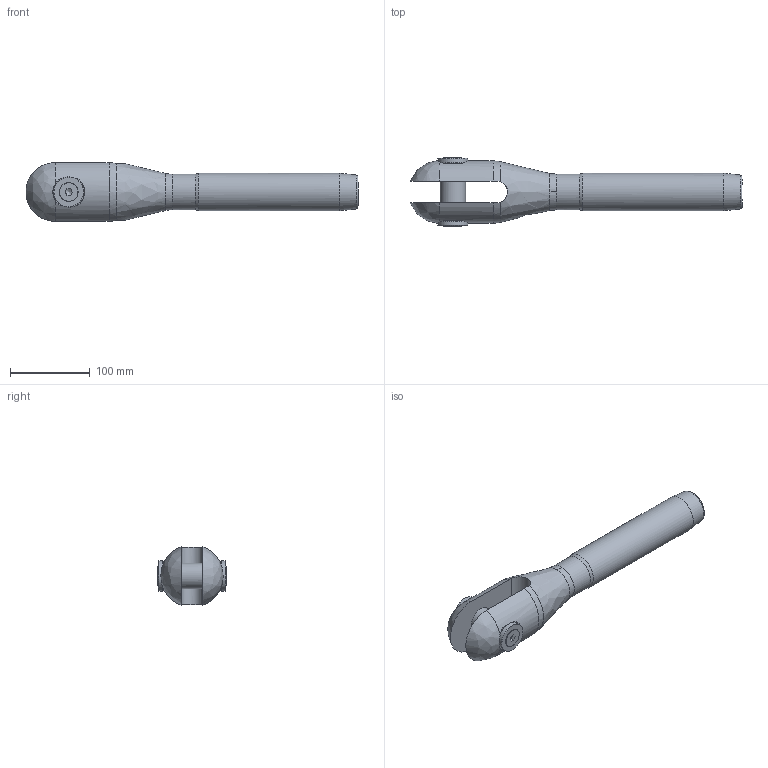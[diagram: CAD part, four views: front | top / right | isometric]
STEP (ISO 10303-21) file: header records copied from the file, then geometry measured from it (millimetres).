
FILE_DESCRIPTION(/* description */ (''),/* implementation_level */ '2;1');
FILE_NAME(/* name */ 'MAC 22_1,4418',/* time_stamp */ '2023-05-23T16:54:54+02:00',/* author */ (''),/* organization */ (''),/* preprocessor_version */ 'ST-DEVELOPER v16.5',/* originating_system */ 'Rhino 7.22',/* authorisation */ '');
FILE_SCHEMA (('CONFIG_CONTROL_DESIGN'));
Length unit declared in the file: millimetre
Products named in the file (1): Document
Bounding box: 415.53 x 85.7 x 73.18 mm (x, y, z)
Volume: 870983.1 mm3; surface area: 107064.4 mm2
Topology: 6 solids, 6 shells, 75 faces, 210 edges, 145 vertices
Faces by surface type: plane 29, bspline 24, cylinder 22
Full cylindrical faces by diameter (mm): 10.106 x2, 12 x2, 12.5 x2, 23.12 x2, 32 x1, 34 x2, 38 x2, 44.5 x1, 46.8 x1
Entity records: 3138 total; most frequent: CARTESIAN_POINT 1791, ORIENTED_EDGE 412, EDGE_CURVE 206, VERTEX_POINT 145, EDGE_LOOP 85, B_SPLINE_CURVE_WITH_KNOTS 84, ADVANCED_FACE 75, FACE_OUTER_BOUND 75
